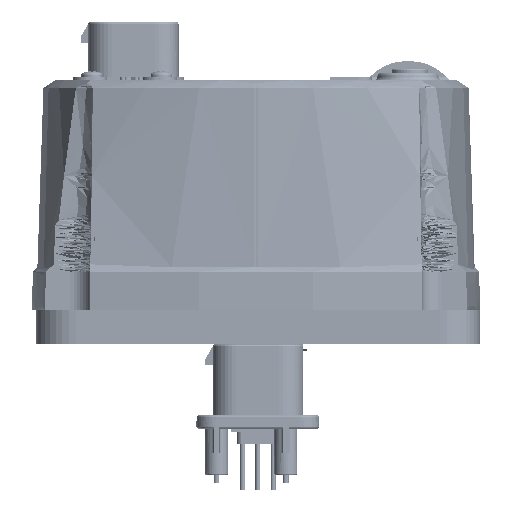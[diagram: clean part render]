
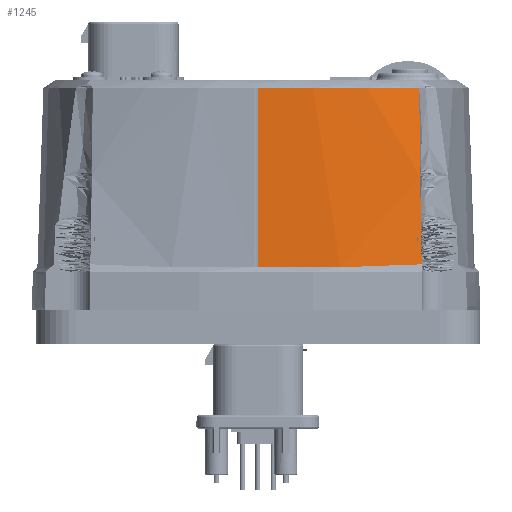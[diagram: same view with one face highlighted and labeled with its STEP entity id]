
A CAD part, left-side view. The second image highlights one B-rep face of the part: STEP entity #1245.
In plain terms, the highlighted free-form (B-spline) face has degree [3, 1] with [10, 2] control points.
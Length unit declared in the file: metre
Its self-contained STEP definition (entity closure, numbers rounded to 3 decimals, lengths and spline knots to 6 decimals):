
#1245 = ADVANCED_FACE( '', ( #3228 ), #3229, .T. );
#3228 = FACE_OUTER_BOUND( '', #9768, .T. );
#3229 = B_SPLINE_SURFACE_WITH_KNOTS( '', 3, 1, ( ( #9769, #9770 ), ( #9771, #9772 ), ( #9773, #9774 ), ( #9775, #9776 ), ( #9777, #9778 ), ( #9779, #9780 ), ( #9781, #9782 ), ( #9783, #9784 ), ( #9785, #9786 ), ( #9787, #9788 ) ), .UNSPECIFIED., .F., .F., .F., ( 4, 2, 2, 2, 4 ), ( 2, 2 ), ( 0., 12.343177, 24.686355, 37.029532, 49.37271 ), ( 4.91918, 60.800685 ), .UNSPECIFIED. );
#9768 = EDGE_LOOP( '', ( #17487, #17488, #17489, #17490 ) );
#9769 = CARTESIAN_POINT( '', ( -0.091838, 0., 0.013854 ) );
#9770 = CARTESIAN_POINT( '', ( -0.089993, 0., 0.069 ) );
#9771 = CARTESIAN_POINT( '', ( -0.091838, -0.004317, 0.013854 ) );
#9772 = CARTESIAN_POINT( '', ( -0.089993, -0.003872, 0.069 ) );
#9773 = CARTESIAN_POINT( '', ( -0.091724, -0.008635, 0.013854 ) );
#9774 = CARTESIAN_POINT( '', ( -0.089781, -0.007744, 0.069 ) );
#9775 = CARTESIAN_POINT( '', ( -0.091268, -0.017257, 0.013854 ) );
#9776 = CARTESIAN_POINT( '', ( -0.088937, -0.015442, 0.069 ) );
#9777 = CARTESIAN_POINT( '', ( -0.090926, -0.021561, 0.013854 ) );
#9778 = CARTESIAN_POINT( '', ( -0.088304, -0.019268, 0.069 ) );
#9779 = CARTESIAN_POINT( '', ( -0.090016, -0.030144, 0.013854 ) );
#9780 = CARTESIAN_POINT( '', ( -0.086625, -0.026828, 0.069 ) );
#9781 = CARTESIAN_POINT( '', ( -0.089448, -0.034422, 0.013854 ) );
#9782 = CARTESIAN_POINT( '', ( -0.085579, -0.030562, 0.069 ) );
#9783 = CARTESIAN_POINT( '', ( -0.088087, -0.042939, 0.013854 ) );
#9784 = CARTESIAN_POINT( '', ( -0.083086, -0.037894, 0.069 ) );
#9785 = CARTESIAN_POINT( '', ( -0.087295, -0.047178, 0.013854 ) );
#9786 = CARTESIAN_POINT( '', ( -0.081639, -0.041492, 0.069 ) );
#9787 = CARTESIAN_POINT( '', ( -0.086392, -0.051392, 0.013854 ) );
#9788 = CARTESIAN_POINT( '', ( -0.08, -0.045, 0.069 ) );
#17487 = ORIENTED_EDGE( '', *, *, #30637, .F. );
#17488 = ORIENTED_EDGE( '', *, *, #30638, .T. );
#17489 = ORIENTED_EDGE( '', *, *, #30639, .F. );
#17490 = ORIENTED_EDGE( '', *, *, #30640, .T. );
#30637 = EDGE_CURVE( '', #35245, #35246, #35247, .T. );
#30638 = EDGE_CURVE( '', #35245, #35248, #35249, .T. );
#30639 = EDGE_CURVE( '', #35250, #35248, #35251, .T. );
#30640 = EDGE_CURVE( '', #35250, #35246, #35252, .T. );
#35245 = VERTEX_POINT( '', #44511 );
#35246 = VERTEX_POINT( '', #44512 );
#35247 = B_SPLINE_CURVE_WITH_KNOTS( '', 3, ( #44513, #44514, #44515, #44516, #44517, #44518, #44519, #44520, #44521, #44522, #44523, #44524 ), .UNSPECIFIED., .F., .F., ( 4, 2, 2, 2, 2, 4 ), ( 0., 0.005387, 0.010774, 0.021548, 0.032322, 0.043095 ), .UNSPECIFIED. );
#35248 = VERTEX_POINT( '', #44525 );
#35249 = B_SPLINE_CURVE_WITH_KNOTS( '', 3, ( #44526, #44527, #44528, #44529, #44530, #44531, #44532, #44533, #44534, #44535, #44536, #44537 ), .UNSPECIFIED., .F., .F., ( 4, 2, 2, 2, 2, 4 ), ( 0.001936, 0.025156, 0.036766, 0.039669, 0.042571, 0.048377 ), .UNSPECIFIED. );
#35250 = VERTEX_POINT( '', #44538 );
#35251 = B_SPLINE_CURVE_WITH_KNOTS( '', 3, ( #44539, #44540, #44541, #44542, #44543, #44544, #44545, #44546, #44547, #44548, #44549, #44550, #44551, #44552 ), .UNSPECIFIED., .F., .F., ( 4, 2, 2, 2, 2, 2, 4 ), ( 0., 0.010836, 0.021673, 0.027091, 0.032509, 0.037927, 0.043346 ), .UNSPECIFIED. );
#35252 = LINE( '', #44553, #44554 );
#44511 = CARTESIAN_POINT( '', ( -0.087302, -0.042792, 0.020925 ) );
#44512 = CARTESIAN_POINT( '', ( -0.091626, 0., 0.020184 ) );
#44513 = CARTESIAN_POINT( '', ( -0.087302, -0.042792, 0.020925 ) );
#44514 = CARTESIAN_POINT( '', ( -0.087674, -0.04104, 0.020784 ) );
#44515 = CARTESIAN_POINT( '', ( -0.088018, -0.039281, 0.02067 ) );
#44516 = CARTESIAN_POINT( '', ( -0.088656, -0.035751, 0.020486 ) );
#44517 = CARTESIAN_POINT( '', ( -0.08895, -0.03398, 0.020415 ) );
#44518 = CARTESIAN_POINT( '', ( -0.089761, -0.028657, 0.020244 ) );
#44519 = CARTESIAN_POINT( '', ( -0.090207, -0.025092, 0.020184 ) );
#44520 = CARTESIAN_POINT( '', ( -0.090919, -0.017943, 0.020124 ) );
#44521 = CARTESIAN_POINT( '', ( -0.091184, -0.01436, 0.020127 ) );
#44522 = CARTESIAN_POINT( '', ( -0.091538, -0.007184, 0.020159 ) );
#44523 = CARTESIAN_POINT( '', ( -0.091626, -0.003592, 0.020184 ) );
#44524 = CARTESIAN_POINT( '', ( -0.091626, 0., 0.020184 ) );
#44525 = CARTESIAN_POINT( '', ( -0.081577, -0.042158, 0.067 ) );
#44526 = CARTESIAN_POINT( '', ( -0.087302, -0.042792, 0.020925 ) );
#44527 = CARTESIAN_POINT( '', ( -0.086472, -0.042658, 0.028619 ) );
#44528 = CARTESIAN_POINT( '', ( -0.085595, -0.042523, 0.036308 ) );
#44529 = CARTESIAN_POINT( '', ( -0.084189, -0.042322, 0.047831 ) );
#44530 = CARTESIAN_POINT( '', ( -0.083706, -0.042255, 0.05167 ) );
#44531 = CARTESIAN_POINT( '', ( -0.08308, -0.042171, 0.056466 ) );
#44532 = CARTESIAN_POINT( '', ( -0.082954, -0.042154, 0.057425 ) );
#44533 = CARTESIAN_POINT( '', ( -0.082696, -0.042128, 0.059343 ) );
#44534 = CARTESIAN_POINT( '', ( -0.082565, -0.042119, 0.060301 ) );
#44535 = CARTESIAN_POINT( '', ( -0.08216, -0.042108, 0.063175 ) );
#44536 = CARTESIAN_POINT( '', ( -0.081878, -0.042119, 0.065089 ) );
#44537 = CARTESIAN_POINT( '', ( -0.081577, -0.042158, 0.067 ) );
#44538 = CARTESIAN_POINT( '', ( -0.09006, 0., 0.067 ) );
#44539 = CARTESIAN_POINT( '', ( -0.09006, 0., 0.067 ) );
#44540 = CARTESIAN_POINT( '', ( -0.09006, -0.003612, 0.067 ) );
#44541 = CARTESIAN_POINT( '', ( -0.08988, -0.007225, 0.067 ) );
#44542 = CARTESIAN_POINT( '', ( -0.089166, -0.014394, 0.067 ) );
#44543 = CARTESIAN_POINT( '', ( -0.088632, -0.017956, 0.067 ) );
#44544 = CARTESIAN_POINT( '', ( -0.087564, -0.023264, 0.067 ) );
#44545 = CARTESIAN_POINT( '', ( -0.087164, -0.025026, 0.067 ) );
#44546 = CARTESIAN_POINT( '', ( -0.086278, -0.028522, 0.067 ) );
#44547 = CARTESIAN_POINT( '', ( -0.085792, -0.030259, 0.067 ) );
#44548 = CARTESIAN_POINT( '', ( -0.084733, -0.033709, 0.067 ) );
#44549 = CARTESIAN_POINT( '', ( -0.08416, -0.035423, 0.067 ) );
#44550 = CARTESIAN_POINT( '', ( -0.082931, -0.038815, 0.067 ) );
#44551 = CARTESIAN_POINT( '', ( -0.082275, -0.040495, 0.067 ) );
#44552 = CARTESIAN_POINT( '', ( -0.081577, -0.042158, 0.067 ) );
#44553 = CARTESIAN_POINT( '', ( -0.090863, 0., 0.043 ) );
#44554 = VECTOR( '', #57179, 1. );
#57179 = DIRECTION( '', ( -0.033, 0., -0.999 ) );
